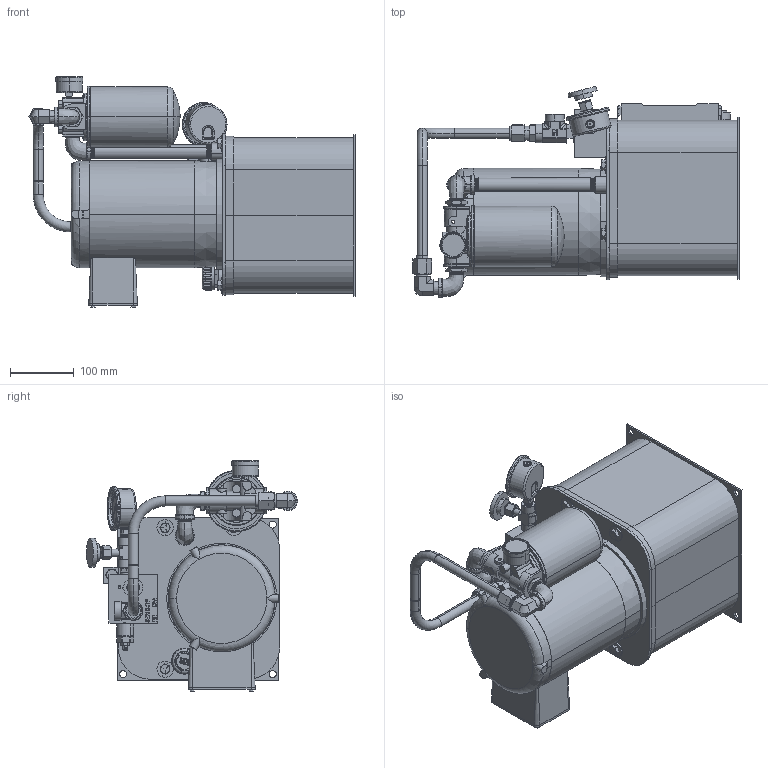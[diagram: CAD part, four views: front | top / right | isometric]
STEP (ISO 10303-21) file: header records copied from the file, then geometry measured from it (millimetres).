
FILE_DESCRIPTION (( 'STEP AP214' ), '1' );
FILE_NAME ('T2V-05-X-NN-F1-034.STEP', '2021-10-26T14:13:33', ( '' ), ( '' ), 'SwSTEP 2.0', 'SolidWorks 2020', '' );
FILE_SCHEMA (( 'AUTOMOTIVE_DESIGN' ));
Length unit declared in the file: inch
Products named in the file (1): T2V-05-X-NN-F1-034
Bounding box: 512.44 x 331.66 x 361.83 mm (x, y, z)
Surface area: 865761.1 mm2 (no closed solid volume)
Topology: 0 solids, 102 shells, 1176 faces, 5249 edges, 4118 vertices
Faces by surface type: plane 446, cone 326, cylinder 244, torus 76, bspline 74, sphere 10
Entity records: 109476 total; most frequent: CARTESIAN_POINT 54635, ORIENTED_EDGE 7627, DIRECTION 7237, EDGE_CURVE 5248, VERTEX_POINT 4118, VECTOR 2689, LINE 2689, AXIS2_PLACEMENT_3D 2274
